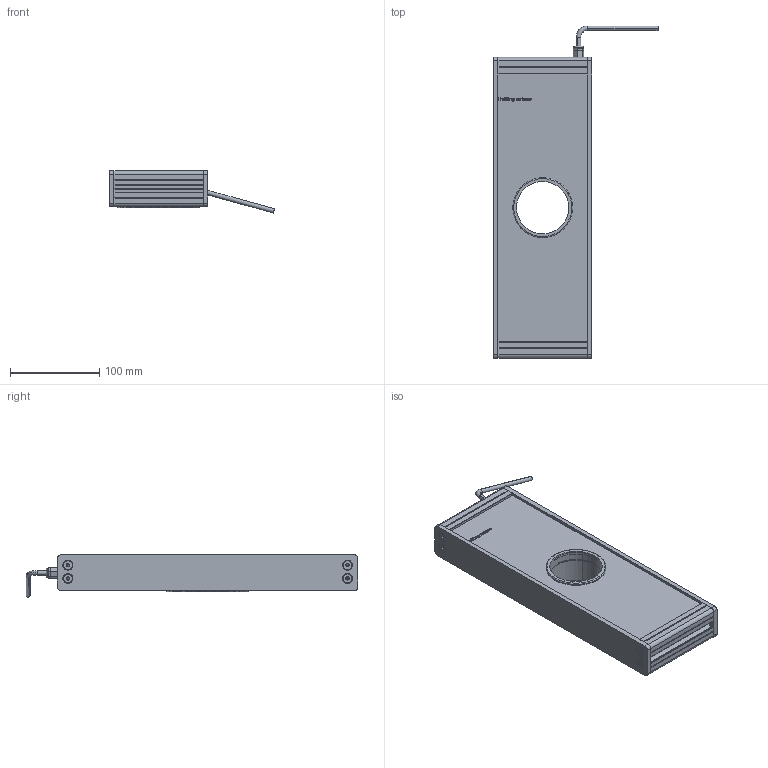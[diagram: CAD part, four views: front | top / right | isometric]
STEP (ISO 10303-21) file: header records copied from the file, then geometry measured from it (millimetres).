
FILE_DESCRIPTION (( 'STEP AP214' ), '1' );
FILE_NAME ('EFFI-FD-100T-300-M12 Ø58.5.STEP', '2021-07-02T11:05:38', ( '' ), ( '' ), 'SwSTEP 2.0', 'SolidWorks 2021', '' );
FILE_SCHEMA (( 'AUTOMOTIVE_DESIGN' ));
Length unit declared in the file: millimetre
Products named in the file (11): Assemblage Ø58.5; 000590; profile modif_lg 99.5 mm; cordon_Avec cable; bord fin modif_lg 436.5 mm; 001037; Pièce2^EFFI-FD-XXXT-YYY-M12 Ø58.5; 003776; 001038; EFFI-FD-100T-300-M12 Ø58.5
Assembly tree (20 placements, depth 3):
  EFFI-FD-100T-300-M12 Ø58.5
    profile modif_lg 99.5 mm
    bord fin modif_lg 436.5 mm  x2
    Pièce2^EFFI-FD-XXXT-YYY-M12 Ø58.5
    profile modif_lg 99.5 mm
    003776  x8
    cordon_Avec cable
    Assemblage Ø58.5
      001037
      001038
      000590  x3
Bounding box: 184.41 x 371.15 x 47.08 mm (x, y, z)
Volume: 1213355.9 mm3; surface area: 217896.8 mm2
Topology: 18 solids, 24 shells, 997 faces, 2503 edges, 1569 vertices
Faces by surface type: plane 391, cylinder 231, bspline 180, cone 152, torus 35, sphere 8
Entity records: 25439 total; most frequent: CARTESIAN_POINT 8620, ORIENTED_EDGE 3290, DIRECTION 3029, EDGE_CURVE 1649, VERTEX_POINT 1066, AXIS2_PLACEMENT_3D 1021, LINE 987, VECTOR 987
